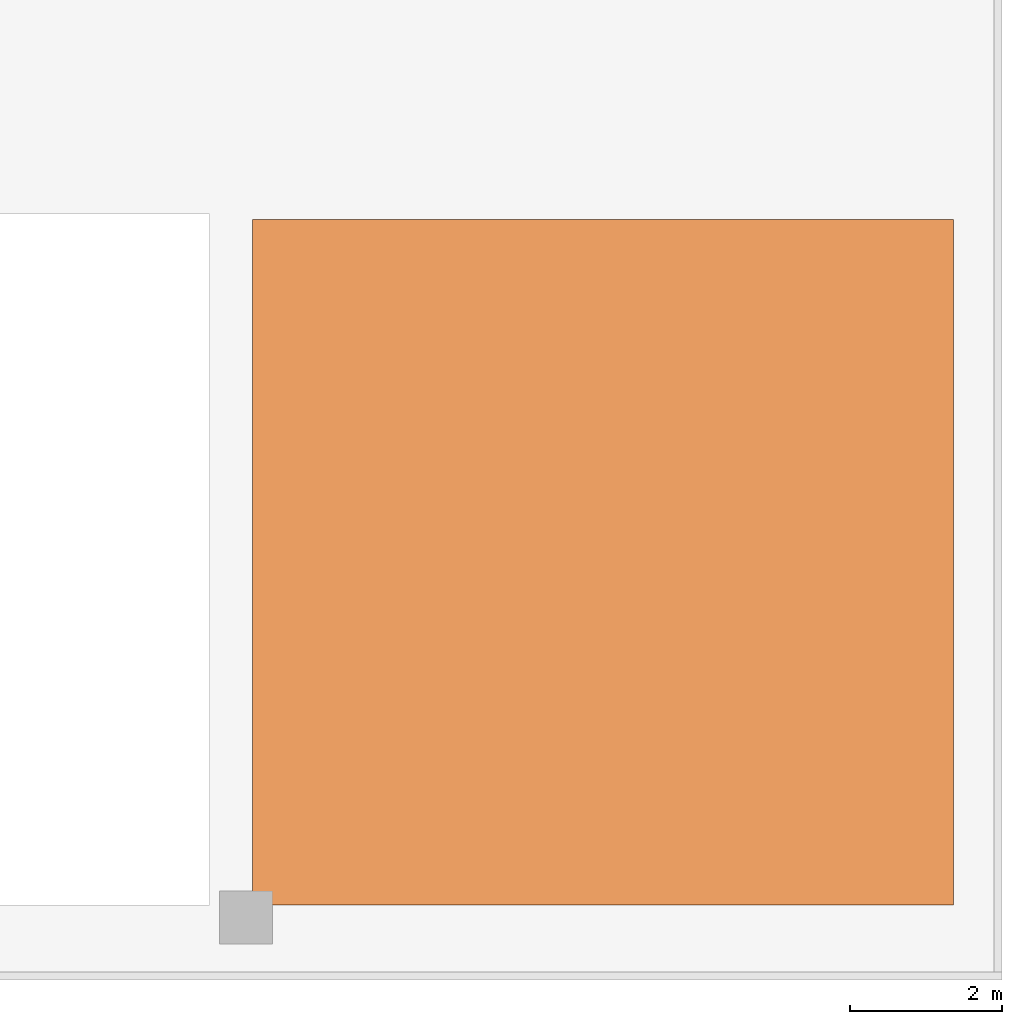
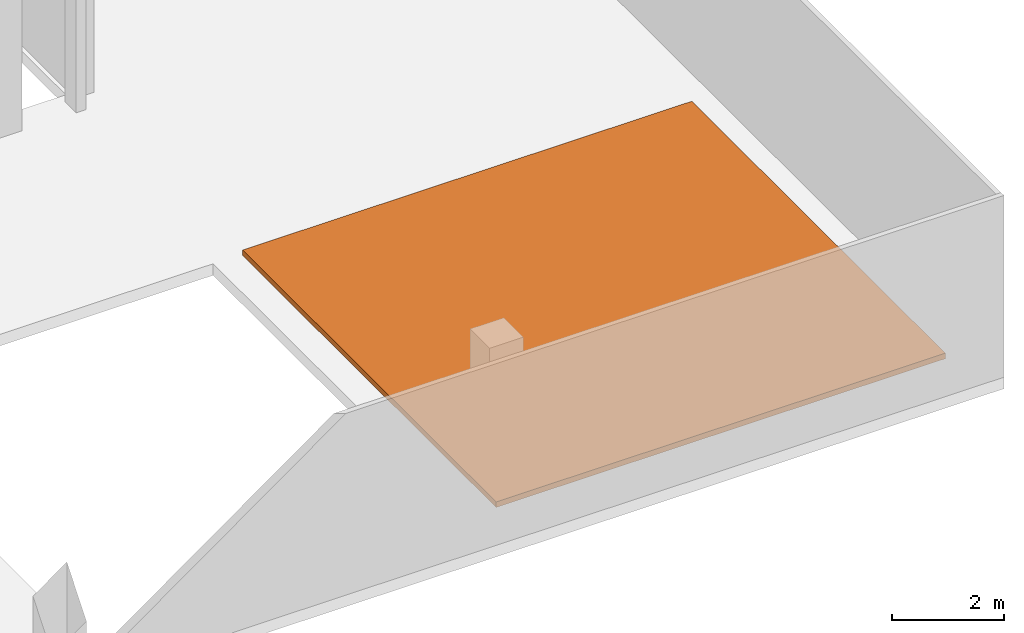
# One storey, part 4 of 4: 1 proxy.
"""IFC4 building model written with IfcOpenShell, lengths in millimetres."""

from ifc_helpers import new_model, si_unit, frame, origin, place, context, project, spatial, triangles, element, save


model = new_model("IFC4")

# Units and contexts
model_context = context("Model", 3, precision=0.001, world=origin())
ifc_project = project(units=[si_unit("LENGTHUNIT", "METRE", prefix="MILLI"), si_unit("AREAUNIT", "SQUARE_METRE"), si_unit("VOLUMEUNIT", "CUBIC_METRE")], contexts=[model_context])

# Site, building, storey
site_placement = place(None, origin())
site = spatial("IfcSite", under=ifc_project, at=site_placement, Name="Site", CompositionType="ELEMENT")
building_placement = place(site_placement, origin())
building = spatial("IfcBuilding", under=site, at=building_placement, Name="INNOCEAN", CompositionType="ELEMENT")
storey_placement = place(building_placement, frame((0.0, 0.0, 80600.0)))
storey = spatial("IfcBuildingStorey", under=building, at=storey_placement, Name="F19", CompositionType="ELEMENT", Elevation=80600.0)

# Proxy
proxy_placement = place(storey_placement, origin())
element("IfcBuildingElementProxy", 1, at=proxy_placement, inside=storey, Name="F19_Garden_F19_001", context=model_context, shape_type="Tessellation", body=[
    triangles([(49785.6573705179, 11572.2943722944, 25.0), (40547.8087649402, 11572.2943722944, 25.0), (40547.8087649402, 11572.2943722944, 145.0), (49785.6573705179, 11572.2943722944, 145.0), (49785.6573705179, 2540.25974025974, 145.0), (49785.6573705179, 2540.25974025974, 25.0), (40547.8087649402, 2540.25974025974, 25.0), (40547.8087649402, 2540.25974025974, 145.0)], [[1, 2, 3], [1, 3, 4], [5, 1, 4], [6, 1, 5], [7, 6, 5], [7, 5, 8], [3, 7, 8], [2, 7, 3], [2, 1, 6], [2, 6, 7], [4, 3, 5], [5, 3, 8]], closed=True),
])

save(model, "model.ifc")
